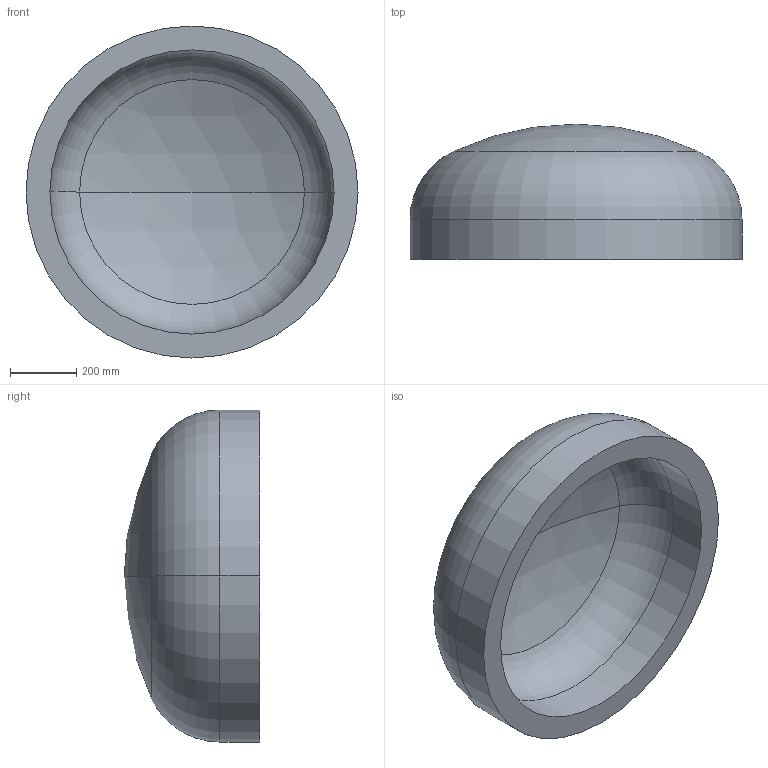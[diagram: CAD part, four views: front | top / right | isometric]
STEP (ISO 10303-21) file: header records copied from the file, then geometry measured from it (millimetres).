
FILE_DESCRIPTION (( 'STEP AP203' ), '1' );
FILE_NAME ('DIN 28013 Korbbogenform_-_Boden DIN 28013 - 1000 x 120 - I - s=72.step', '2016-07-01T08:53:28', ( '' ), ( '' ), 'SwSTEP 2.0', 'SolidWorks 2013', '' );
FILE_SCHEMA (( 'CONFIG_CONTROL_DESIGN' ));
Length unit declared in the file: millimetre
Products named in the file (1): DIN 28013 Korbbogenform_-_Boden DIN 28013 - 1000 x 120 - I - s=72
Bounding box: 1000 x 407.62 x 1000 mm (x, y, z)
Volume: 96798139 mm3; surface area: 2909602.7 mm2
Topology: 1 solids, 1 shells, 13 faces, 24 edges, 14 vertices
Faces by surface type: torus 4, cylinder 4, sphere 4, plane 1
Entity records: 407 total; most frequent: DIRECTION 72, CARTESIAN_POINT 52, ORIENTED_EDGE 48, AXIS2_PLACEMENT_3D 34, EDGE_CURVE 24, CIRCLE 20, EDGE_LOOP 14, VERTEX_POINT 14
